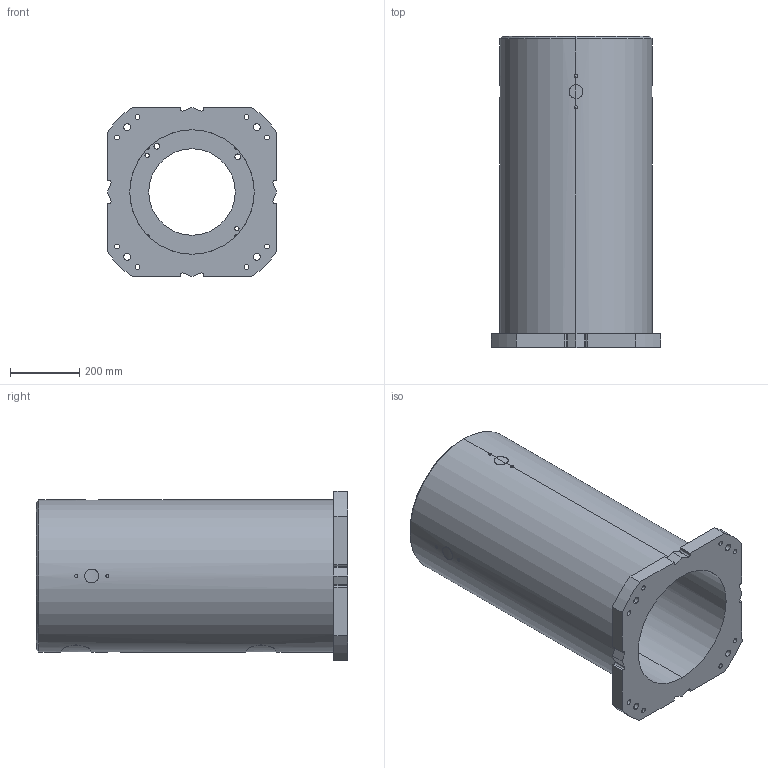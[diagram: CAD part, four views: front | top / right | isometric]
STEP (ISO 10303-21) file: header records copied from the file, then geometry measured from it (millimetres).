
FILE_DESCRIPTION (( 'STEP AP214' ), '1' );
FILE_NAME ('H-900.STEP', '2025-12-08T06:24:45', ( '' ), ( '' ), 'SwSTEP 2.0', 'SolidWorks 2022', '' );
FILE_SCHEMA (( 'AUTOMOTIVE_DESIGN' ));
Length unit declared in the file: millimetre
Products named in the file (1): H-900
Bounding box: 490 x 900 x 490 mm (x, y, z)
Volume: 50064190.1 mm3; surface area: 2656114.1 mm2
Topology: 1 solids, 1 shells, 175 faces, 469 edges, 304 vertices
Faces by surface type: cylinder 117, plane 32, bspline 24, cone 2
Entity records: 11290 total; most frequent: CARTESIAN_POINT 6399, ORIENTED_EDGE 938, DIRECTION 785, EDGE_CURVE 469, VERTEX_POINT 304, AXIS2_PLACEMENT_3D 302, EDGE_LOOP 225, VECTOR 181
